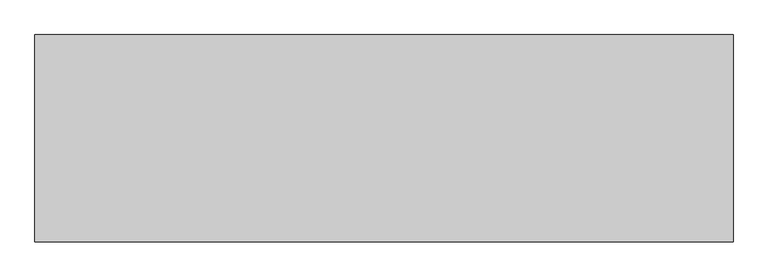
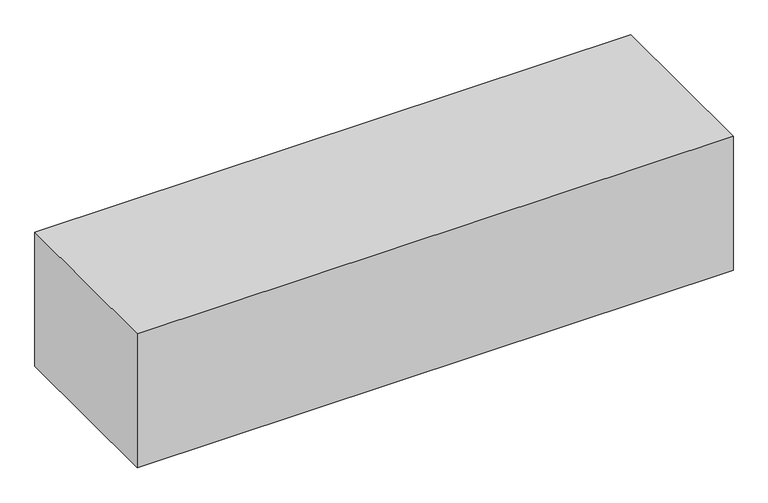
"""IFC4 building model written with IfcOpenShell, lengths in millimetres: geographic element geometry, r 低木密植 : 低木密植."""

from ifc_helpers import new_model, si_unit, origin, origin_with_axes, place, context, project, spatial, polyline, outline, extrude, source, transform, mapped, element, save


def geographic_element_b699ae96(model_context):
    return source(origin(), model_context, "Body", "SweptSolid", [
        extrude(outline(polyline([(0.0, 0.0), (0.0, 500.0), (1682.9446658, 500.0), (1682.9446658, 0.0), (0.0, 0.0)])), origin_with_axes(), (0.0, 0.0, 1.0), 400.0),
    ])


if __name__ == "__main__":
    model = new_model("IFC4")
    model_context = context("Model", 3, world=origin())
    ifc_project = project(units=[si_unit("LENGTHUNIT", "METRE", prefix="MILLI")], contexts=[model_context])
    site = spatial("IfcSite", under=ifc_project)
    building = spatial("IfcBuilding", under=site)
    placement = place(None, origin())
    geographic_element_shape = geographic_element_b699ae96(model_context)
    element("IfcGeographicElement", 1, ObjectType="r 低木密植 : 低木密植", at=placement, inside=building, context=model_context, shape_type="MappedRepresentation", body=[
        mapped(geographic_element_shape, transform((0.0, 0.0, 0.0), x_axis=(1.0, 0.0, 0.0), y_axis=(0.0, 1.0, 0.0), z_axis=(0.0, 0.0, 1.0))),
    ])
    save(model, "model.ifc")
